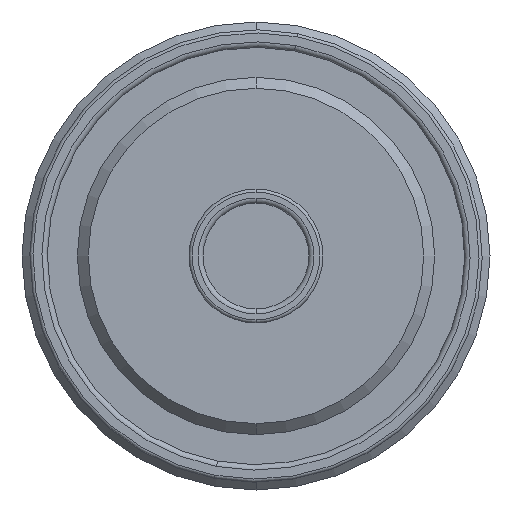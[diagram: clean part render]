
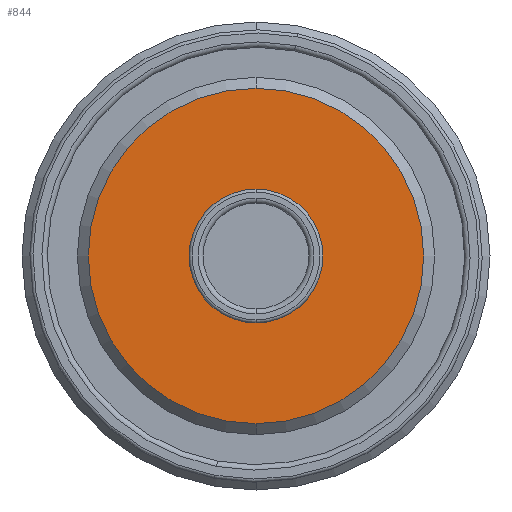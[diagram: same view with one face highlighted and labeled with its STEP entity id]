
A CAD part, front view. The second image highlights one B-rep face of the part: STEP entity #844.
In plain terms, the highlighted planar face has unit normal (0, -1, 0).
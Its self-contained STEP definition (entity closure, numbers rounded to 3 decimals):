
#275=PLANE('',#3605);
#323=FACE_BOUND('',#1302,.T.);
#324=FACE_BOUND('',#1303,.T.);
#844=ADVANCED_FACE('',(#323,#324),#275,.T.);
#1302=EDGE_LOOP('',(#1805,#1806));
#1303=EDGE_LOOP('',(#1807,#1808));
#1805=ORIENTED_EDGE('',*,*,#2889,.T.);
#1806=ORIENTED_EDGE('',*,*,#2821,.T.);
#1807=ORIENTED_EDGE('',*,*,#2817,.F.);
#1808=ORIENTED_EDGE('',*,*,#2890,.F.);
#2487=VERTEX_POINT('',#5365);
#2488=VERTEX_POINT('',#5366);
#2491=VERTEX_POINT('',#5374);
#2492=VERTEX_POINT('',#5375);
#2817=EDGE_CURVE('',#2487,#2488,#3227,.T.);
#2821=EDGE_CURVE('',#2491,#2492,#3229,.T.);
#2889=EDGE_CURVE('',#2492,#2491,#3251,.T.);
#2890=EDGE_CURVE('',#2488,#2487,#3252,.T.);
#3227=CIRCLE('',#3563,21.5);
#3229=CIRCLE('',#3566,8.58);
#3251=CIRCLE('',#3602,8.58);
#3252=CIRCLE('',#3604,21.5);
#3563=AXIS2_PLACEMENT_3D('',#5364,#4258,#4259);
#3566=AXIS2_PLACEMENT_3D('',#5373,#4266,#4267);
#3602=AXIS2_PLACEMENT_3D('',#5749,#4356,#4357);
#3604=AXIS2_PLACEMENT_3D('',#5751,#4360,#4361);
#3605=AXIS2_PLACEMENT_3D('',#5752,#4362,#4363);
#4258=DIRECTION('',(0.,1.,0.));
#4259=DIRECTION('',(0.,0.,1.));
#4266=DIRECTION('',(0.,1.,0.));
#4267=DIRECTION('',(0.,0.,1.));
#4356=DIRECTION('',(0.,1.,0.));
#4357=DIRECTION('',(0.,0.,1.));
#4360=DIRECTION('',(0.,1.,0.));
#4361=DIRECTION('',(0.,0.,1.));
#4362=DIRECTION('',(0.,-1.,0.));
#4363=DIRECTION('',(0.,0.,-1.));
#5364=CARTESIAN_POINT('',(0.,-1.3,0.));
#5365=CARTESIAN_POINT('',(0.,-1.3,21.5));
#5366=CARTESIAN_POINT('',(0.,-1.3,-21.5));
#5373=CARTESIAN_POINT('',(0.,-1.3,0.));
#5374=CARTESIAN_POINT('',(0.,-1.3,-8.58));
#5375=CARTESIAN_POINT('',(0.,-1.3,8.58));
#5749=CARTESIAN_POINT('',(0.,-1.3,0.));
#5751=CARTESIAN_POINT('',(0.,-1.3,0.));
#5752=CARTESIAN_POINT('',(0.,-1.3,0.));
